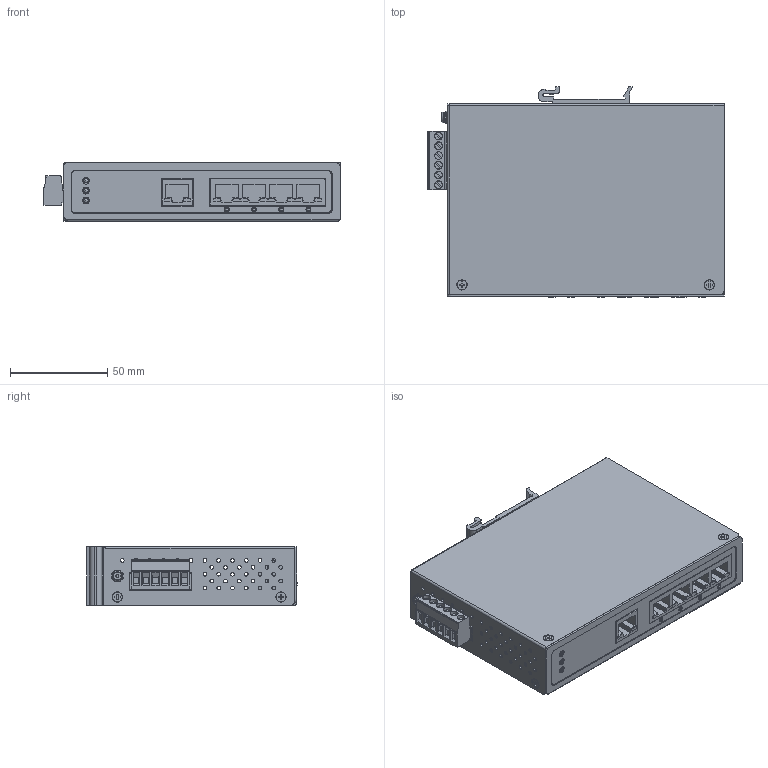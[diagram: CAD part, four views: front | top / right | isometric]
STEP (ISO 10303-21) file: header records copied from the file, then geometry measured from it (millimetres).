
FILE_DESCRIPTION(/* description */ ('STEP AP214'),/* implementation_level */ '2;1');
FILE_NAME(/* name */ '60e79906c6e5e738ba30bb96',/* time_stamp */ '2021-07-09T00:32:09+00:00',/* author */ (''),/* organization */ (''),/* preprocessor_version */ 'ST-DEVELOPER v18.1',/* originating_system */ ' ',/* authorisation */ ' ');
FILE_SCHEMA (('AUTOMOTIVE_DESIGN {1 0 10303 214 3 1 1}'));
Length unit declared in the file: metre
Products named in the file (29): Lexan Label; 6 Position Connector; M3 Ground Screw; M3 Flat Head Screw-10; M3 Flat Head Screw-9; M3 Flat Head Screw-8; DIN Clip; M3 Flat Head Screw-7; M3 Flat Head Screw-6; M3 Flat Head Screw-5; M3 Flat Head Screw-4; M3 Flat Head Screw-3; M3 Flat Head Screw-2; M3 Flat Head Screw-1; Top Housing; LED 1X3; LED Green SMD-4; LED Green SMD-3; LED Green SMD-2; LED Green SMD-1; Connector Socket; RJ-45 Single; RJ-45 1X4; Bracket; Standoff; Bottom Housing
Bounding box: 151.96 x 108.23 x 30 mm (x, y, z)
Volume: 72630.3 mm3; surface area: 114829.2 mm2
Topology: 29 solids, 33 shells, 1904 faces, 4841 edges, 3116 vertices
Faces by surface type: plane 1139, cylinder 601, torus 79, cone 50, sphere 33, bspline 2
Full cylindrical faces by diameter (mm): 0.6 x1, 1.4 x6, 1.5 x1, 1.9 x111, 2 x19, 2.3 x3, 2.449 x4, 2.459 x4, 2.5 x4, 2.8 x10, 2.9 x8, 3 x13, 3.5 x10, 3.78 x4, 3.783 x6, 3.99 x8, 4 x28, 4.2 x13, 5 x10, 5.5 x1
Entity records: 58369 total; most frequent: CARTESIAN_POINT 12197, DIRECTION 9538, ORIENTED_EDGE 8742, EDGE_CURVE 4371, AXIS2_PLACEMENT_3D 3286, VERTEX_POINT 3003, LINE 2966, VECTOR 2966
